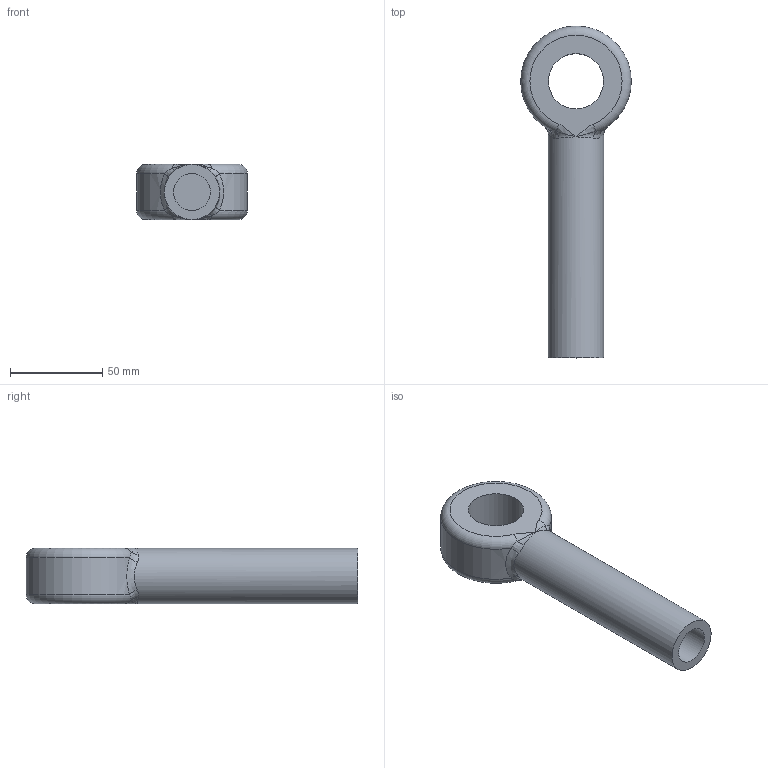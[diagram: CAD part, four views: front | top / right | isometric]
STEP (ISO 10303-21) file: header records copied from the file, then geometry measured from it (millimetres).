
FILE_DESCRIPTION(/* description */ (''),/* implementation_level */ '2;1');
FILE_NAME(/* name */ 'Component_1 v1.step',/* time_stamp */ '2023-01-16T16:36:11+03:00',/* author */ (''),/* organization */ (''),/* preprocessor_version */ 'ST-DEVELOPER v19.2',/* originating_system */ 'Autodesk Translation Framework v11.17.0.187',/* authorisation */ '');
FILE_SCHEMA (('AUTOMOTIVE_DESIGN { 1 0 10303 214 3 1 1 }'));
Length unit declared in the file: millimetre
Products named in the file (1): Component_1
Bounding box: 60 x 180 x 30 mm (x, y, z)
Volume: 112986.8 mm3; surface area: 30298.6 mm2
Topology: 1 solids, 1 shells, 24 faces, 57 edges, 28 vertices
Faces by surface type: bspline 15, plane 4, cylinder 3, torus 2
Full cylindrical faces by diameter (mm): 30 x2
Entity records: 1426 total; most frequent: CARTESIAN_POINT 963, ORIENTED_EDGE 98, DIRECTION 61, EDGE_CURVE 49, AXIS2_PLACEMENT_3D 29, VERTEX_POINT 28, EDGE_LOOP 27, B_SPLINE_CURVE_WITH_KNOTS 27
